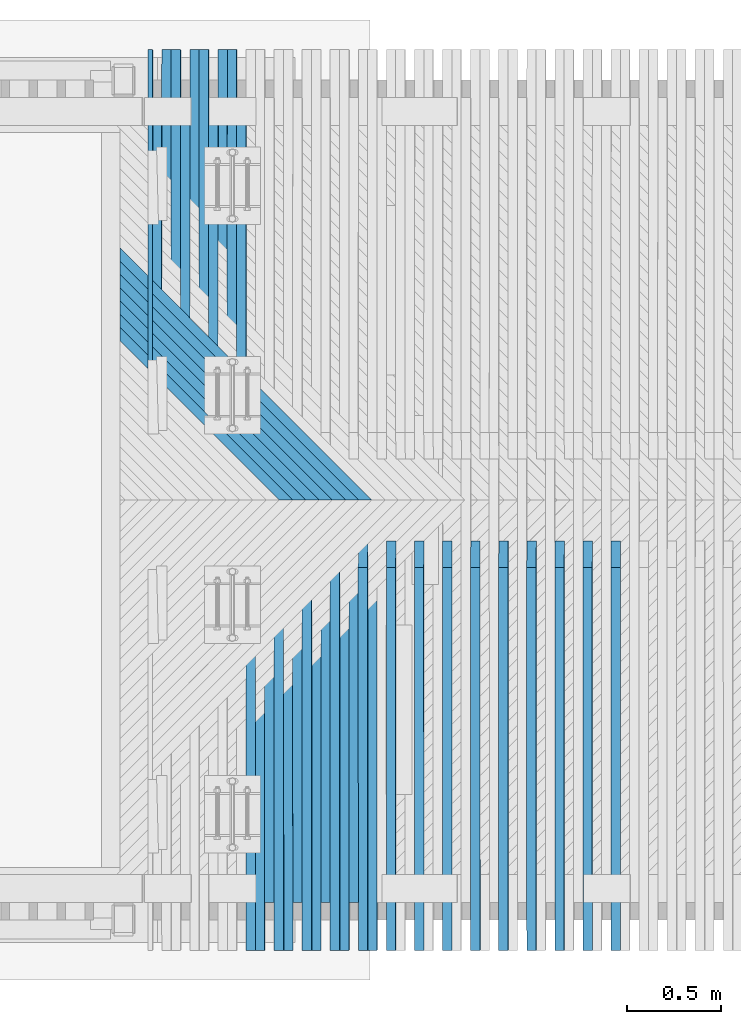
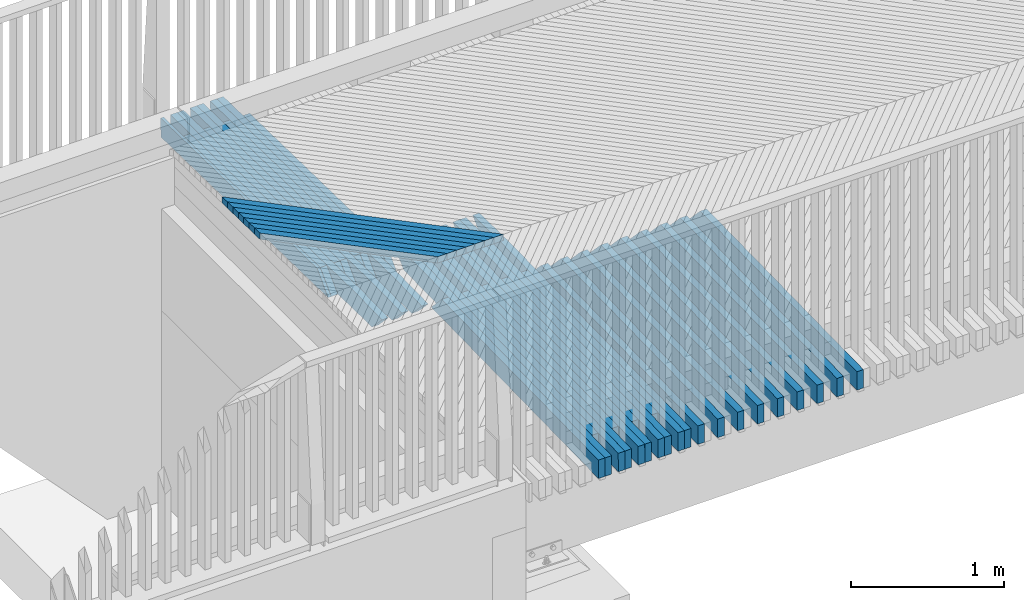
# One storey, part 14 of 47: 41 beams.
"""IFC2X3 building model written with IfcOpenShell, lengths in millimetres."""

from ifc_helpers import new_model, si_unit, frame, origin_with_axes, place, context, subcontext, project, spatial, faceted_brep, material, type_object, element, save


model = new_model("IFC2X3")

# Units and contexts
model_context = context("Model", 3, precision=1e-05, world=origin_with_axes())
body_context = subcontext(model_context, "Body", "Model", "MODEL_VIEW")
ifc_project = project(units=[si_unit("LENGTHUNIT", "METRE", prefix="MILLI"), si_unit("AREAUNIT", "SQUARE_METRE"), si_unit("VOLUMEUNIT", "CUBIC_METRE"), si_unit("MASSUNIT", "GRAM", prefix="KILO"), si_unit("TIMEUNIT", "SECOND"), si_unit("PLANEANGLEUNIT", "RADIAN"), si_unit("SOLIDANGLEUNIT", "STERADIAN"), si_unit("THERMODYNAMICTEMPERATUREUNIT", "DEGREE_CELSIUS"), si_unit("LUMINOUSINTENSITYUNIT", "LUMEN")], contexts=[model_context])

# Site, building, storey
site_placement = place(None, origin_with_axes())
site = spatial("IfcSite", under=ifc_project, at=site_placement, Name="Undefined", CompositionType="ELEMENT")
building_placement = place(site_placement, origin_with_axes())
building = spatial("IfcBuilding", under=site, at=building_placement, Name="Undefined", CompositionType="ELEMENT")
storey_placement = place(building_placement, origin_with_axes())
storey = spatial("IfcBuildingStorey", under=building, at=storey_placement, Name="Undefined", CompositionType="ELEMENT", Elevation=0.0)

# Beams
ifc_material = material(Name="TIMBER/Timber_Undefined")
beam_type_1 = type_object("IfcBeamType", Name="150*50", PredefinedType="NOTDEFINED")
beam_1_placement = place(storey_placement, frame((-451.366781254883, 64771.4438078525, 3028.65854987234), z_axis=(-0.0140342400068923, 0.0199960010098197, 0.99970155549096), x_axis=(-0.000280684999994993, -0.999800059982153, 0.019994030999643)))
element("IfcBeam", 1, at=beam_1_placement, inside=storey, type_object=beam_type_1, material=ifc_material, Name="BEAM", ObjectType="150*50", context=body_context, shape_type="Brep", body=[
    faceted_brep([(-6.19911588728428e-09, 25.0, 75.0), (6.18456397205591e-09, 24.9999999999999, -75.0), (6.1918399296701e-09, -0.143084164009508, -75.0), (-6.1918399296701e-09, 1.51686676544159, 75.0), (2186.42645864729, 25.0, -75.0), (2186.42645861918, 0.340830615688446, -75.0), (2047.96935973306, 1.9701372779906, 75.0), (2047.96935975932, 25.0, 75.0)], [[[0, 1, 2, 3]], [[2, 1, 4, 5]], [[3, 2, 5, 6]], [[0, 3, 6, 7]], [[1, 0, 7, 4]], [[6, 5, 4, 7]]]),
])
beam_2_placement = place(storey_placement, frame((-301.352542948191, 64771.4438078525, 3030.74621527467), z_axis=(-0.0137850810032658, 0.0199960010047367, 0.999705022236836), x_axis=(-0.000275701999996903, -0.999800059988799, 0.0199940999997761)))
element("IfcBeam", 2, at=beam_2_placement, inside=storey, type_object=beam_type_1, material=ifc_material, Name="BEAM", ObjectType="150*50", context=body_context, shape_type="Brep", body=[
    faceted_brep([(6.18456397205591e-09, -24.9999999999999, -75.0000000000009), (-6.1918399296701e-09, -24.9999999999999, 74.9999999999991), (-6.19911588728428e-09, 25.0, 75.0), (6.18456397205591e-09, 24.9999999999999, -75.0), (2186.42645864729, 25.0, -75.0), (2186.42645915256, -25.0000000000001, -75.0), (2047.96936034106, -25.0000000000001, 75.0), (2047.96935975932, 25.0, 75.0)], [[[0, 1, 2, 3]], [[0, 3, 4, 5]], [[1, 0, 5, 6]], [[2, 1, 6, 7]], [[3, 2, 7, 4]], [[6, 5, 4, 7]]]),
])
beam_3_placement = place(storey_placement, frame((-401.434081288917, 64513.4953923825, 3034.51705788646), z_axis=(-0.0139511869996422, 0.0199960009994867, 0.999702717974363), x_axis=(-0.000279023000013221, -0.999800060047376, 0.0199940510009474)))
element("IfcBeam", 3, at=beam_3_placement, inside=storey, type_object=beam_type_1, material=ifc_material, Name="BEAM", ObjectType="150*50", context=body_context, shape_type="Brep", body=[
    faceted_brep([(6.18456397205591e-09, -24.9999999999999, -75.0000000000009), (-6.1918399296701e-09, -24.9999999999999, 74.9999999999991), (-6.19911588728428e-09, 25.0, 75.0), (6.18456397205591e-09, 24.9999999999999, -75.0), (1928.42646506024, 25.0, -75.0), (1928.4264649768, -24.9999999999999, -75.0), (1789.96936577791, -24.9999999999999, 75.0), (1789.96936586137, 25.0, 75.0000000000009)], [[[0, 1, 2, 3]], [[0, 3, 4, 5]], [[1, 0, 5, 6]], [[2, 1, 6, 7]], [[3, 2, 7, 4]], [[6, 5, 4, 7]]]),
])
beam_4_placement = place(storey_placement, frame((-351.387200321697, 64771.443807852, 3030.05539664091), z_axis=(-0.0139511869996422, 0.0199960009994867, 0.999702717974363), x_axis=(-0.000279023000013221, -0.999800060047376, 0.0199940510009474)))
element("IfcBeam", 4, at=beam_4_placement, inside=storey, type_object=beam_type_1, material=ifc_material, Name="BEAM", ObjectType="150*50", context=body_context, shape_type="Brep", body=[
    faceted_brep([(6.18456397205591e-09, -24.9999999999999, -75.0000000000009), (6.18456397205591e-09, 24.9999999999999, -75.0), (2633.00494983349, 25.0000000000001, -75.0000000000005), (2633.00495050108, -24.9999999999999, -75.0000000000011), (-6.1918399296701e-09, -24.9999999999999, 74.9999999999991), (-6.19911588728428e-09, 25.0, 75.0), (2408.42506497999, 24.9999999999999, 75.0), (2768.5924870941, 25.0, 60.5875375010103), (2768.59248707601, -25.0, 60.5875366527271), (2408.4250638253, -25.0, 74.9999999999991)], [[[0, 1, 2, 3]], [[0, 4, 5, 1]], [[2, 1, 5, 6, 7]], [[3, 2, 7, 8]], [[4, 0, 3, 8, 9]], [[5, 4, 9, 6]], [[8, 7, 6, 9]]]),
])
beam_5_placement = place(storey_placement, frame((-151.337788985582, 64771.4438078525, 3032.79649211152), z_axis=(-0.0135359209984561, 0.0199960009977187, 0.999708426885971), x_axis=(-0.000270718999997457, -0.999800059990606, 0.0199941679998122)))
element("IfcBeam", 5, at=beam_5_placement, inside=storey, type_object=beam_type_1, material=ifc_material, Name="BEAM", ObjectType="150*50", context=body_context, shape_type="Brep", body=[
    faceted_brep([(6.18456397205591e-09, -24.9999999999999, -75.0000000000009), (-6.1918399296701e-09, -24.9999999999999, 74.9999999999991), (-6.19911588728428e-09, 25.0, 75.0), (6.18456397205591e-09, 24.9999999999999, -75.0), (2186.42645864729, 25.0, -75.0), (2186.42645915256, -25.0000000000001, -75.0), (2047.96936034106, -25.0000000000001, 75.0), (2047.96935975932, 25.0, 75.0)], [[[0, 1, 2, 3]], [[0, 3, 4, 5]], [[1, 0, 5, 6]], [[2, 1, 6, 7]], [[3, 2, 7, 4]], [[6, 5, 4, 7]]]),
])
beam_6_placement = place(storey_placement, frame((-251.418384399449, 64513.4953923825, 3036.59227822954), z_axis=(-0.0137020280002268, 0.0199960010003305, 0.999706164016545), x_axis=(-0.000274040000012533, -0.999800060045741, 0.0199941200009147)))
element("IfcBeam", 6, at=beam_6_placement, inside=storey, type_object=beam_type_1, material=ifc_material, Name="BEAM", ObjectType="150*50", context=body_context, shape_type="Brep", body=[
    faceted_brep([(6.18456397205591e-09, -24.9999999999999, -75.0000000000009), (-6.1918399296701e-09, -24.9999999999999, 74.9999999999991), (-6.19911588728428e-09, 25.0, 75.0), (6.18456397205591e-09, 24.9999999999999, -75.0), (1928.42646506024, 25.0, -75.0), (1928.4264649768, -24.9999999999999, -75.0), (1789.96936577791, -24.9999999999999, 75.0), (1789.96936586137, 25.0, 75.0000000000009)], [[[0, 1, 2, 3]], [[0, 3, 4, 5]], [[1, 0, 5, 6]], [[2, 1, 6, 7]], [[3, 2, 7, 4]], [[6, 5, 4, 7]]]),
])
beam_7_placement = place(storey_placement, frame((-201.372616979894, 64771.443807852, 3032.11814378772), z_axis=(-0.0137020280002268, 0.0199960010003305, 0.999706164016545), x_axis=(-0.000274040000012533, -0.999800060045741, 0.0199941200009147)))
element("IfcBeam", 7, at=beam_7_placement, inside=storey, type_object=beam_type_1, material=ifc_material, Name="BEAM", ObjectType="150*50", context=body_context, shape_type="Brep", body=[
    faceted_brep([(6.18456397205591e-09, -24.9999999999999, -75.0000000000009), (6.18456397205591e-09, 24.9999999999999, -75.0), (2633.00494983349, 25.0000000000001, -75.0000000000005), (2633.00495050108, -24.9999999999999, -75.0000000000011), (-6.1918399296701e-09, -24.9999999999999, 74.9999999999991), (-6.19911588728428e-09, 25.0, 75.0), (2408.42501428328, 25.0000000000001, 74.9999999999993), (2768.5924870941, 25.0, 60.5875375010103), (2768.59248707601, -25.0, 60.5875366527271), (2408.4250638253, -25.0, 74.9999999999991)], [[[0, 1, 2, 3]], [[0, 4, 5, 1]], [[2, 1, 5, 6, 7]], [[3, 2, 7, 8]], [[4, 0, 3, 8, 9]], [[5, 4, 9, 6]], [[8, 7, 6, 9]]]),
])
beam_8_placement = place(storey_placement, frame((-1.32252868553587, 64771.4438078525, 3034.80938025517), z_axis=(-0.0132867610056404, 0.0199960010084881, 0.999711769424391), x_axis=(-0.000265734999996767, -0.999800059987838, 0.0199942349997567)))
element("IfcBeam", 8, at=beam_8_placement, inside=storey, type_object=beam_type_1, material=ifc_material, Name="BEAM", ObjectType="150*50", context=body_context, shape_type="Brep", body=[
    faceted_brep([(6.18456397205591e-09, -24.9999999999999, -75.0000000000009), (-6.1918399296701e-09, -24.9999999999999, 74.9999999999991), (-6.19911588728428e-09, 25.0, 75.0), (6.18456397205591e-09, 24.9999999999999, -75.0), (2186.42645864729, 25.0, -75.0), (2186.42645915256, -25.0000000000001, -75.0), (2047.96936034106, -25.0000000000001, 75.0), (2047.96935975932, 25.0, 75.0)], [[[0, 1, 2, 3]], [[0, 3, 4, 5]], [[1, 0, 5, 6]], [[2, 1, 6, 7]], [[3, 2, 7, 4]], [[6, 5, 4, 7]]]),
])
beam_9_placement = place(storey_placement, frame((-101.402174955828, 64513.4953923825, 3038.6301096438), z_axis=(-0.0134528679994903, 0.0199960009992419, 0.99970954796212), x_axis=(-0.000269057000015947, -0.999800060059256, 0.0199941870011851)))
element("IfcBeam", 9, at=beam_9_placement, inside=storey, type_object=beam_type_1, material=ifc_material, Name="BEAM", ObjectType="150*50", context=body_context, shape_type="Brep", body=[
    faceted_brep([(6.18456397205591e-09, -24.9999999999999, -75.0000000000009), (-6.1918399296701e-09, -24.9999999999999, 74.9999999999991), (-6.19911588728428e-09, 25.0, 75.0), (6.18456397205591e-09, 24.9999999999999, -75.0), (1928.42646506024, 25.0, -75.0), (1928.4264649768, -24.9999999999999, -75.0), (1789.96936577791, -24.9999999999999, 75.0), (1789.96936586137, 25.0, 75.0000000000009)], [[[0, 1, 2, 3]], [[0, 3, 4, 5]], [[1, 0, 5, 6]], [[2, 1, 6, 7]], [[3, 2, 7, 4]], [[6, 5, 4, 7]]]),
])
beam_10_placement = place(storey_placement, frame((-51.3575241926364, 64771.443807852, 3034.14350228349), z_axis=(-0.0134528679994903, 0.0199960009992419, 0.99970954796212), x_axis=(-0.000269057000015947, -0.999800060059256, 0.0199941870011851)))
element("IfcBeam", 10, at=beam_10_placement, inside=storey, type_object=beam_type_1, material=ifc_material, Name="BEAM", ObjectType="150*50", context=body_context, shape_type="Brep", body=[
    faceted_brep([(6.18456397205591e-09, -24.9999999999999, -75.0000000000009), (6.18456397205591e-09, 24.9999999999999, -75.0), (2633.00494983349, 25.0000000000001, -75.0000000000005), (2633.00495050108, -24.9999999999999, -75.0000000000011), (-6.1918399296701e-09, -24.9999999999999, 74.9999999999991), (-6.19911588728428e-09, 25.0, 75.0), (2408.42506497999, 24.9999999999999, 75.0), (2768.5924870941, 25.0, 60.5875375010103), (2768.59248707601, -25.0, 60.5875366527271), (2408.4250638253, -25.0, 74.9999999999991)], [[[0, 1, 2, 3]], [[0, 4, 5, 1]], [[2, 1, 5, 6, 7]], [[3, 2, 7, 8]], [[4, 0, 3, 8, 9]], [[5, 4, 9, 6]], [[8, 7, 6, 9]]]),
])
beam_11_placement = place(storey_placement, frame((148.693228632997, 59958.5561921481, 3036.78487957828), z_axis=(-0.0130375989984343, -0.0199960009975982, 0.999715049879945), x_axis=(-0.000260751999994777, 0.99980005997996, 0.0199943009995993)))
element("IfcBeam", 11, at=beam_11_placement, inside=storey, type_object=beam_type_1, material=ifc_material, Name="BEAM", ObjectType="150*50", context=body_context, shape_type="Brep", body=[
    faceted_brep([(6.18456397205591e-09, -24.9999999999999, -75.0000000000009), (-6.1918399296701e-09, -24.9999999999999, 74.9999999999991), (-6.19911588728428e-09, 25.0, 75.0), (6.18456397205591e-09, 24.9999999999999, -75.0), (2633.00494983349, 25.0000000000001, -75.0000000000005), (2633.00495050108, -24.9999999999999, -75.0000000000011), (2768.59248707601, -25.0, 60.5875366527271), (2408.42499905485, -25.0, 74.9999999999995), (2408.42501428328, 25.0000000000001, 74.9999999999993), (2768.5924870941, 25.0, 60.5875375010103)], [[[0, 1, 2, 3]], [[0, 3, 4, 5]], [[1, 0, 5, 6, 7]], [[2, 1, 7, 8]], [[4, 3, 2, 8, 9]], [[5, 4, 9, 6]], [[8, 7, 6, 9]]]),
])
beam_12_placement = place(storey_placement, frame((48.6145377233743, 64513.4953923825, 3040.63055200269), z_axis=(-0.0132037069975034, 0.0199960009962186, 0.999712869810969), x_axis=(-0.000264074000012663, -0.999800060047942, 0.0199942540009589)))
element("IfcBeam", 12, at=beam_12_placement, inside=storey, type_object=beam_type_1, material=ifc_material, Name="BEAM", ObjectType="150*50", context=body_context, shape_type="Brep", body=[
    faceted_brep([(6.18456397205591e-09, -24.9999999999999, -75.0000000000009), (-6.1918399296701e-09, -24.9999999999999, 74.9999999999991), (-6.19911588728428e-09, 25.0, 75.0), (6.18456397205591e-09, 24.9999999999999, -75.0), (1928.42646506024, 25.0, -75.0), (1928.4264649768, -24.9999999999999, -75.0), (1789.96936577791, -24.9999999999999, 75.0), (1789.96936586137, 25.0, 75.0000000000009)], [[[0, 1, 2, 3]], [[0, 3, 4, 5]], [[1, 0, 5, 6]], [[2, 1, 6, 7]], [[3, 2, 7, 4]], [[6, 5, 4, 7]]]),
])
beam_13_placement = place(storey_placement, frame((98.6589257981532, 59958.5561921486, 3036.13148332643), z_axis=(-0.0132037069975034, -0.0199960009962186, 0.999712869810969), x_axis=(-0.000264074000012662, 0.999800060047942, 0.0199942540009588)))
element("IfcBeam", 13, at=beam_13_placement, inside=storey, type_object=beam_type_1, material=ifc_material, Name="BEAM", ObjectType="150*50", context=body_context, shape_type="Brep", body=[
    faceted_brep([(6.18456397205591e-09, -24.9999999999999, -75.0000000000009), (-6.1918399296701e-09, -24.9999999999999, 74.9999999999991), (-6.19911588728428e-09, 25.0, 75.0), (6.18456397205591e-09, 24.9999999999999, -75.0), (2186.42645915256, -25.0000000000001, -75.0), (2047.96936034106, -25.0000000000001, 75.0), (2047.96935975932, 25.0, 75.0), (2186.42645864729, 25.0, -75.0)], [[[0, 1, 2, 3]], [[1, 0, 4, 5]], [[2, 1, 5, 6]], [[3, 2, 6, 7]], [[0, 3, 7, 4]], [[5, 4, 7, 6]]]),
])
beam_14_placement = place(storey_placement, frame((298.709473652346, 59958.5561921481, 3038.72298996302), z_axis=(-0.0127884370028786, -0.0199960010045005, 0.999718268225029), x_axis=(-0.000255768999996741, 0.999800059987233, 0.0199943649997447)))
element("IfcBeam", 14, at=beam_14_placement, inside=storey, type_object=beam_type_1, material=ifc_material, Name="BEAM", ObjectType="150*50", context=body_context, shape_type="Brep", body=[
    faceted_brep([(6.18456397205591e-09, -24.9999999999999, -75.0000000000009), (-6.1918399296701e-09, -24.9999999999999, 74.9999999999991), (-6.19911588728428e-09, 25.0, 75.0), (6.18456397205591e-09, 24.9999999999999, -75.0), (2633.00494983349, 25.0000000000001, -75.0000000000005), (2633.00495050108, -24.9999999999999, -75.0000000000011), (2768.59248707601, -25.0, 60.5875366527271), (2408.42499905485, -25.0, 74.9999999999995), (2408.42501428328, 25.0000000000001, 74.9999999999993), (2768.5924870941, 25.0, 60.5875375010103)], [[[0, 1, 2, 3]], [[0, 3, 4, 5]], [[1, 0, 5, 6, 7]], [[2, 1, 7, 8]], [[4, 3, 2, 8, 9]], [[5, 4, 9, 6]], [[8, 7, 6, 9]]]),
])
beam_15_placement = place(storey_placement, frame((198.631744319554, 60216.5046076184, 3042.5936051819), z_axis=(-0.0129545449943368, -0.019996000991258, 0.999716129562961), x_axis=(-0.000259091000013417, 0.999800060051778, 0.0199943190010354)))
element("IfcBeam", 15, at=beam_15_placement, inside=storey, type_object=beam_type_1, material=ifc_material, Name="BEAM", ObjectType="150*50", context=body_context, shape_type="Brep", body=[
    faceted_brep([(6.18456397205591e-09, -24.9999999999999, -75.0000000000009), (-6.1918399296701e-09, -24.9999999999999, 74.9999999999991), (-6.19911588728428e-09, 25.0, 75.0), (6.18456397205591e-09, 24.9999999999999, -75.0), (2375.00494220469, 24.9999999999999, -75.0000000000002), (2375.00494218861, -25.0, -75.0), (2510.59248711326, -25.0, 60.5875455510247), (2150.42518973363, -25.0, 75.0000000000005), (2150.42518840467, 25.0, 74.9999999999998), (2510.59248707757, 25.0, 60.5875454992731)], [[[0, 1, 2, 3]], [[0, 3, 4, 5]], [[1, 0, 5, 6, 7]], [[2, 1, 7, 8]], [[4, 3, 2, 8, 9]], [[5, 4, 9, 6]], [[8, 7, 6, 9]]]),
])
beam_16_placement = place(storey_placement, frame((248.675009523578, 59958.5561921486, 3038.08206393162), z_axis=(-0.0129545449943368, -0.019996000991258, 0.999716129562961), x_axis=(-0.000259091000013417, 0.999800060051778, 0.0199943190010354)))
element("IfcBeam", 16, at=beam_16_placement, inside=storey, type_object=beam_type_1, material=ifc_material, Name="BEAM", ObjectType="150*50", context=body_context, shape_type="Brep", body=[
    faceted_brep([(6.18456397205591e-09, -24.9999999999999, -75.0000000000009), (-6.1918399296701e-09, -24.9999999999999, 74.9999999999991), (-6.19911588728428e-09, 25.0, 75.0), (6.18456397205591e-09, 24.9999999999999, -75.0), (2186.42645915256, -25.0000000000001, -75.0), (2047.96936034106, -25.0000000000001, 75.0), (2047.96935975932, 25.0, 75.0), (2186.42645864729, 25.0, -75.0)], [[[0, 1, 2, 3]], [[1, 0, 4, 5]], [[2, 1, 5, 6]], [[3, 2, 6, 7]], [[0, 3, 7, 4]], [[5, 4, 7, 6]]]),
])
beam_17_placement = place(storey_placement, frame((448.726197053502, 59958.5561921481, 3040.62371128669), z_axis=(-0.0125392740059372, -0.0199960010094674, 0.999721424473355), x_axis=(-0.000250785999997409, 0.999800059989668, 0.0199944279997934)))
element("IfcBeam", 17, at=beam_17_placement, inside=storey, type_object=beam_type_1, material=ifc_material, Name="BEAM", ObjectType="150*50", context=body_context, shape_type="Brep", body=[
    faceted_brep([(6.18456397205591e-09, -24.9999999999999, -75.0000000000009), (-6.1918399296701e-09, -24.9999999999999, 74.9999999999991), (-6.19911588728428e-09, 25.0, 75.0), (6.18456397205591e-09, 24.9999999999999, -75.0), (2633.00494983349, 25.0000000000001, -75.0000000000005), (2633.00495050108, -24.9999999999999, -75.0000000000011), (2768.59248707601, -25.0, 60.5875366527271), (2408.42499905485, -25.0, 74.9999999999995), (2408.42501428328, 25.0000000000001, 74.9999999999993), (2768.5924870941, 25.0, 60.5875375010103)], [[[0, 1, 2, 3]], [[0, 3, 4, 5]], [[1, 0, 5, 6, 7]], [[2, 1, 7, 8]], [[4, 3, 2, 8, 9]], [[5, 4, 9, 6]], [[8, 7, 6, 9]]]),
])
beam_18_placement = place(storey_placement, frame((348.649435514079, 60216.5046076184, 3044.51926905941), z_axis=(-0.0127053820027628, -0.0199960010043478, 0.999719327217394), x_axis=(-0.000254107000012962, 0.999800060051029, 0.0199943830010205)))
element("IfcBeam", 18, at=beam_18_placement, inside=storey, type_object=beam_type_1, material=ifc_material, Name="BEAM", ObjectType="150*50", context=body_context, shape_type="Brep", body=[
    faceted_brep([(6.18456397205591e-09, -24.9999999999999, -75.0000000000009), (-6.1918399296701e-09, -24.9999999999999, 74.9999999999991), (-6.19911588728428e-09, 25.0, 75.0), (6.18456397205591e-09, 24.9999999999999, -75.0), (2375.00494220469, 24.9999999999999, -75.0000000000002), (2375.00494218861, -25.0, -75.0), (2510.59248711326, -25.0, 60.5875455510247), (2150.42518973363, -25.0, 75.0000000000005), (2150.42518840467, 25.0, 74.9999999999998), (2510.59248707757, 25.0, 60.5875454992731)], [[[0, 1, 2, 3]], [[0, 3, 4, 5]], [[1, 0, 5, 6, 7]], [[2, 1, 7, 8]], [[4, 3, 2, 8, 9]], [[5, 4, 9, 6]], [[8, 7, 6, 9]]]),
])
beam_19_placement = place(storey_placement, frame((398.691574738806, 59958.5561921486, 3039.99525551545), z_axis=(-0.0127053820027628, -0.0199960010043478, 0.999719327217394), x_axis=(-0.000254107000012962, 0.999800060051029, 0.0199943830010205)))
element("IfcBeam", 19, at=beam_19_placement, inside=storey, type_object=beam_type_1, material=ifc_material, Name="BEAM", ObjectType="150*50", context=body_context, shape_type="Brep", body=[
    faceted_brep([(6.18456397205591e-09, -24.9999999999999, -75.0000000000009), (-6.1918399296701e-09, -24.9999999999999, 74.9999999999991), (-6.19911588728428e-09, 25.0, 75.0), (6.18456397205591e-09, 24.9999999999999, -75.0), (2186.42645915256, -25.0000000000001, -75.0), (2047.96936034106, -25.0000000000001, 75.0), (2047.96935975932, 25.0, 75.0), (2186.42645864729, 25.0, -75.0)], [[[0, 1, 2, 3]], [[1, 0, 4, 5]], [[2, 1, 5, 6]], [[3, 2, 6, 7]], [[0, 3, 7, 4]], [[5, 4, 7, 6]]]),
])
beam_20_placement = place(storey_placement, frame((598.743389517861, 59958.5561921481, 3042.48704343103), z_axis=(-0.0122901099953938, -0.0199960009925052, 0.999724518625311), x_axis=(-0.000245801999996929, 0.999800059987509, 0.0199944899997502)))
element("IfcBeam", 20, at=beam_20_placement, inside=storey, type_object=beam_type_1, material=ifc_material, Name="BEAM", ObjectType="150*50", context=body_context, shape_type="Brep", body=[
    faceted_brep([(6.18456397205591e-09, -24.9999999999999, -75.0000000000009), (-6.1918399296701e-09, -24.9999999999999, 74.9999999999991), (-6.19911588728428e-09, 25.0, 75.0), (6.18456397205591e-09, 24.9999999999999, -75.0), (2633.00494983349, 25.0000000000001, -75.0000000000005), (2633.00495050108, -24.9999999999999, -75.0000000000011), (2768.59248707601, -25.0, 60.5875366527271), (2408.42499905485, -25.0, 74.9999999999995), (2408.42501428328, 25.0000000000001, 74.9999999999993), (2768.5924870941, 25.0, 60.5875375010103)], [[[0, 1, 2, 3]], [[0, 3, 4, 5]], [[1, 0, 5, 6, 7]], [[2, 1, 7, 8]], [[4, 3, 2, 8, 9]], [[5, 4, 9, 6]], [[8, 7, 6, 9]]]),
])
beam_21_placement = place(storey_placement, frame((498.667601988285, 60216.5046076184, 3046.40754351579), z_axis=(-0.0124562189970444, -0.0199960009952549, 0.999722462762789), x_axis=(-0.000249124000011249, 0.999800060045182, 0.0199944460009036)))
element("IfcBeam", 21, at=beam_21_placement, inside=storey, type_object=beam_type_1, material=ifc_material, Name="BEAM", ObjectType="150*50", context=body_context, shape_type="Brep", body=[
    faceted_brep([(6.18456397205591e-09, -24.9999999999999, -75.0000000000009), (-6.1918399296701e-09, -24.9999999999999, 74.9999999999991), (-6.19911588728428e-09, 25.0, 75.0), (6.18456397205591e-09, 24.9999999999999, -75.0), (2375.00494220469, 24.9999999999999, -75.0000000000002), (2375.00494218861, -25.0, -75.0), (2510.59248711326, -25.0, 60.5875455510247), (2150.42518973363, -25.0, 75.0000000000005), (2150.42518840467, 25.0, 74.9999999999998), (2510.59248707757, 25.0, 60.5875454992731)], [[[0, 1, 2, 3]], [[0, 3, 4, 5]], [[1, 0, 5, 6, 7]], [[2, 1, 7, 8]], [[4, 3, 2, 8, 9]], [[5, 4, 9, 6]], [[8, 7, 6, 9]]]),
])
beam_22_placement = place(storey_placement, frame((548.708612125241, 59958.5561921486, 3041.87105795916), z_axis=(-0.0124562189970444, -0.0199960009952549, 0.999722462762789), x_axis=(-0.000249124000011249, 0.999800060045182, 0.0199944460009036)))
element("IfcBeam", 22, at=beam_22_placement, inside=storey, type_object=beam_type_1, material=ifc_material, Name="BEAM", ObjectType="150*50", context=body_context, shape_type="Brep", body=[
    faceted_brep([(6.18456397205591e-09, -24.9999999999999, -75.0000000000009), (-6.1918399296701e-09, -24.9999999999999, 74.9999999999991), (-6.19911588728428e-09, 25.0, 75.0), (6.18456397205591e-09, 24.9999999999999, -75.0), (2186.42645915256, -25.0000000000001, -75.0), (2047.96936034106, -25.0000000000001, 75.0), (2047.96935975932, 25.0, 75.0), (2186.42645864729, 25.0, -75.0)], [[[0, 1, 2, 3]], [[1, 0, 4, 5]], [[2, 1, 5, 6]], [[3, 2, 6, 7]], [[0, 3, 7, 4]], [[5, 4, 7, 6]]]),
])
beam_23_placement = place(storey_placement, frame((748.761041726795, 59958.5561921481, 3044.31298628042), z_axis=(-0.0120409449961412, -0.0199960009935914, 0.999727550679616), x_axis=(-0.000240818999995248, 0.999800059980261, 0.0199945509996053)))
element("IfcBeam", 23, at=beam_23_placement, inside=storey, type_object=beam_type_1, material=ifc_material, Name="BEAM", ObjectType="150*50", context=body_context, shape_type="Brep", body=[
    faceted_brep([(6.18456397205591e-09, -24.9999999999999, -75.0000000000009), (-6.1918399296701e-09, -24.9999999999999, 74.9999999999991), (-6.19911588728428e-09, 25.0, 75.0), (6.18456397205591e-09, 24.9999999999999, -75.0), (2633.00494983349, 25.0000000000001, -75.0000000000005), (2633.00495050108, -24.9999999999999, -75.0000000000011), (2768.59248707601, -25.0, 60.5875366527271), (2408.42499905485, -25.0, 74.9999999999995), (2408.42501428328, 25.0000000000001, 74.9999999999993), (2768.5924870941, 25.0, 60.5875375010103)], [[[0, 1, 2, 3]], [[0, 3, 4, 5]], [[1, 0, 5, 6, 7]], [[2, 1, 7, 8]], [[4, 3, 2, 8, 9]], [[5, 4, 9, 6]], [[8, 7, 6, 9]]]),
])
beam_24_placement = place(storey_placement, frame((648.686234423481, 60216.5046076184, 3048.25842843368), z_axis=(-0.0122070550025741, -0.0199960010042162, 0.999725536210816), x_axis=(-0.000244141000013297, 0.999800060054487, 0.0199945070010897)))
element("IfcBeam", 24, at=beam_24_placement, inside=storey, type_object=beam_type_1, material=ifc_material, Name="BEAM", ObjectType="150*50", context=body_context, shape_type="Brep", body=[
    faceted_brep([(6.18456397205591e-09, -24.9999999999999, -75.0000000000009), (-6.1918399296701e-09, -24.9999999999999, 74.9999999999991), (-6.19911588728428e-09, 25.0, 75.0), (6.18456397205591e-09, 24.9999999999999, -75.0), (2375.00494220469, 24.9999999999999, -75.0000000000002), (2375.00494218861, -25.0, -75.0), (2510.59248711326, -25.0, 60.5875455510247), (2150.42518973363, -25.0, 75.0000000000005), (2150.42518840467, 25.0, 74.9999999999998), (2510.59248707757, 25.0, 60.5875454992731)], [[[0, 1, 2, 3]], [[0, 3, 4, 5]], [[1, 0, 5, 6, 7]], [[2, 1, 7, 8]], [[4, 3, 2, 8, 9]], [[5, 4, 9, 6]], [[8, 7, 6, 9]]]),
])
for number, where, z_axis, x_axis, name in (
    (25, (698.726112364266, 59958.5561921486, 3043.70947114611), (-0.0122070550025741, -0.0199960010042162, 0.999725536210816), (-0.000244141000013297, 0.999800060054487, 0.0199945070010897), "BEAM"),
    (26, (848.744066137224, 59958.5561921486, 3045.5104949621), (-0.0119578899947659, -0.019996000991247, 0.999728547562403), (-0.00023915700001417, 0.999800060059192, 0.0199945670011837), "BEAM"),
    (27, (998.762464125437, 59958.5561921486, 3047.27412929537), (-0.0117087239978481, -0.0199960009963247, 0.999731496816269), (-0.000234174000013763, 0.999800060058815, 0.0199946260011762), "BEAM"),
    (28, (1148.7812970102, 59958.5561921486, 3049.00037403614), (-0.0114595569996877, -0.0199960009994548, 0.999734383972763), (-0.000229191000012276, 0.9998000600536, 0.0199946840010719), "BEAM"),
    (29, (1298.80055547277, 59958.5561921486, 3050.68922907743), (-0.0112103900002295, -0.0199960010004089, 0.999737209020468), (-0.000224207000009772, 0.999800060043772, 0.0199947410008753), "BEAM"),
    (30, (1448.8202301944, 59958.5561921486, 3052.34069431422), (-0.0109612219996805, -0.0199960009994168, 0.999739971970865), (-0.000219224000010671, 0.999800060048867, 0.0199947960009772), "BEAM"),
    (31, (1598.84031185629, 59958.5561921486, 3053.95476964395), (-0.0107120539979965, -0.0199960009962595, 0.99974267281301), (-0.00021424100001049, 0.999800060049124, 0.0199948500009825), "BEAM"),
    (32, (1748.86079113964, 59958.5561921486, 3055.53145496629), (-0.0104628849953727, -0.0199960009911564, 0.999745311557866), (-0.000209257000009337, 0.999800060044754, 0.019994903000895), "BEAM"),
    (33, (1898.88165872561, 59958.5561921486, 3057.07075018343), (-0.0102137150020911, -0.0199960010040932, 0.999747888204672), (-0.000204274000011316, 0.999800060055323, 0.0199949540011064), "BEAM"),
    (34, (2048.90290529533, 59958.5561921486, 3058.57265519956), (-0.00996454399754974, -0.0199960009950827, 0.99975040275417), (-0.000199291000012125, 0.999800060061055, 0.019995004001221), "BEAM"),
):
    element("IfcBeam", number, at=place(storey_placement, frame(where, z_axis=z_axis, x_axis=x_axis)), inside=storey, type_object=beam_type_1, material=ifc_material, Name=name, ObjectType="150*50", context=body_context, shape_type="Brep", body=[
        faceted_brep([(6.18456397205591e-09, -24.9999999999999, -75.0000000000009), (-6.1918399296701e-09, -24.9999999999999, 74.9999999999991), (-6.19911588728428e-09, 25.0, 75.0), (6.18456397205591e-09, 24.9999999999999, -75.0), (2186.42645915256, -25.0000000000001, -75.0), (2047.96936034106, -25.0000000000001, 75.0), (2047.96935975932, 25.0, 75.0), (2186.42645864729, 25.0, -75.0)], [[[0, 1, 2, 3]], [[1, 0, 4, 5]], [[2, 1, 5, 6]], [[3, 2, 6, 7]], [[0, 3, 7, 4]], [[5, 4, 7, 6]]]),
    ])
beam_type_2 = type_object("IfcBeamType", Name="50*50", PredefinedType="NOTDEFINED")
beam_25_placement = place(storey_placement, frame((285.627712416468, 62365.4998996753, 3186.70087009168), z_axis=(0.707221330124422, 0.706981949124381, -0.00380970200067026), x_axis=(-0.70684136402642, 0.706948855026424, -0.0244663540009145)))
element("IfcBeam", 35, at=beam_25_placement, inside=storey, type_object=beam_type_2, material=ifc_material, Name="BEAM", ObjectType="50*50", context=body_context, shape_type="Brep", body=[
    faceted_brep([(25.0011701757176, -25.0, -24.9999999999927), (-25.0011704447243, -25.0, 24.9999999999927), (-26.4154158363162, 25.0, 25.0), (23.5869248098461, 25.0, -25.0), (1277.43393563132, 25.0000000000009, 25.0000000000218), (1227.40705788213, 25.0000000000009, -24.9999999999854), (1228.44010482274, -24.9999999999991, -24.9999999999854), (1278.46698257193, -24.9999999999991, 25.0000000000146)], [[[0, 1, 2, 3]], [[3, 2, 4, 5]], [[0, 3, 5, 6]], [[1, 0, 6, 7]], [[2, 1, 7, 4]], [[6, 5, 4, 7]]]),
])
beam_26_placement = place(storey_placement, frame((356.346193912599, 62365.4998996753, 3187.60285202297), z_axis=(0.707220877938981, 0.706981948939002, -0.00389277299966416), x_axis=(-0.706844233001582, 0.706948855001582, -0.0243833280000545)))
element("IfcBeam", 36, at=beam_26_placement, inside=storey, type_object=beam_type_2, material=ifc_material, Name="BEAM", ObjectType="50*50", context=body_context, shape_type="Brep", body=[
    faceted_brep([(25.0011701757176, -25.0, -24.9999999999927), (-25.0011704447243, -25.0, 24.9999999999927), (-26.4154158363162, 25.0, 25.0), (23.5869248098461, 25.0, -25.0), (1377.48107131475, 25.0, 24.9999999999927), (1327.45442860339, 25.0, -25.0), (1328.47916507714, -25.0, -25.0), (1378.50580778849, -25.0, 25.0)], [[[0, 1, 2, 3]], [[3, 2, 4, 5]], [[0, 3, 5, 6]], [[1, 0, 6, 7]], [[2, 1, 7, 4]], [[6, 5, 4, 7]]]),
])
beam_27_placement = place(storey_placement, frame((427.06478086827, 62365.4998996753, 3188.49652730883), z_axis=(0.707220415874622, 0.706981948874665, -0.0039758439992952), x_axis=(-0.706847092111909, 0.706948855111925, -0.0243003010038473)))
element("IfcBeam", 37, at=beam_27_placement, inside=storey, type_object=beam_type_2, material=ifc_material, Name="BEAM", ObjectType="50*50", context=body_context, shape_type="Brep", body=[
    faceted_brep([(25.0011701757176, -25.0, -24.9999999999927), (-25.0011704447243, -25.0, 24.9999999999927), (-26.4154158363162, 25.0, 25.0), (23.5869248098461, 25.0, -25.0), (1477.52756434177, 25.0, 24.9999999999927), (1427.50115666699, 25.0, -25.0), (1428.51758270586, -25.0, -25.0000000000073), (1478.54399038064, -25.0, 24.9999999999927)], [[[0, 1, 2, 3]], [[3, 2, 4, 5]], [[0, 3, 5, 6]], [[1, 0, 6, 7]], [[2, 1, 7, 4]], [[6, 5, 4, 7]]]),
])
beam_28_placement = place(storey_placement, frame((497.783472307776, 62365.4998996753, 3189.38189593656), z_axis=(0.707219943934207, 0.70698194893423, -0.00405891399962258), x_axis=(-0.706849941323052, 0.706948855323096, -0.024217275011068)))
element("IfcBeam", 38, at=beam_28_placement, inside=storey, type_object=beam_type_2, material=ifc_material, Name="BEAM", ObjectType="50*50", context=body_context, shape_type="Brep", body=[
    faceted_brep([(25.0011701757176, -25.0, -24.9999999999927), (-25.0011704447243, -25.0, 24.9999999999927), (-26.4154158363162, 25.0, 25.0), (23.5869248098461, 25.0, -25.0), (1577.57341753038, 24.9999999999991, 25.0000000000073), (1527.54724488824, 24.9999999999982, -24.9999999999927), (1528.55536067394, -25.0000000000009, -24.9999999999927), (1578.58153331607, -25.0000000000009, 25.0000000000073)], [[[0, 1, 2, 3]], [[3, 2, 4, 5]], [[0, 3, 5, 6]], [[1, 0, 6, 7]], [[2, 1, 7, 4]], [[6, 5, 4, 7]]]),
])
beam_29_placement = place(storey_placement, frame((568.50226725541, 62365.4998996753, 3190.25895789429), z_axis=(0.707219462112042, 0.706981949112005, -0.0041419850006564), x_axis=(-0.706852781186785, 0.706948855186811, -0.0241342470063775)))
element("IfcBeam", 39, at=beam_29_placement, inside=storey, type_object=beam_type_2, material=ifc_material, Name="BEAM", ObjectType="50*50", context=body_context, shape_type="Brep", body=[
    faceted_brep([(25.0011701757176, -25.0, -24.9999999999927), (-25.0011704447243, -25.0, 24.9999999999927), (-26.4154158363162, 25.0, 25.0), (23.5869248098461, 25.0, -25.0), (1677.61863252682, 25.0000000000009, 25.0), (1627.59269495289, 25.0, -25.0), (1628.59250041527, -24.9999999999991, -25.0000000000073), (1678.61843798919, -24.9999999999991, 24.9999999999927)], [[[0, 1, 2, 3]], [[3, 2, 4, 5]], [[0, 3, 5, 6]], [[1, 0, 6, 7]], [[2, 1, 7, 4]], [[6, 5, 4, 7]]]),
])
beam_30_placement = place(storey_placement, frame((639.221164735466, 62365.4998996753, 3191.12771316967), z_axis=(0.707218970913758, 0.706981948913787, -0.00422505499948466), x_axis=(-0.70685561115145, 0.70694885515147, -0.0240512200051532)))
element("IfcBeam", 40, at=beam_30_placement, inside=storey, type_object=beam_type_2, material=ifc_material, Name="BEAM", ObjectType="50*50", context=body_context, shape_type="Brep", body=[
    faceted_brep([(25.0011701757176, -25.0, -24.9999999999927), (-25.0011704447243, -25.0, 24.9999999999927), (-26.4154158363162, 25.0, 25.0), (23.5869248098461, 25.0, -25.0), (1777.66321320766, 25.0, 25.0), (1727.63751066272, 25.0, -25.0), (1728.62900598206, -25.0, -25.0), (1778.654708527, -25.0, 25.0)], [[[0, 1, 2, 3]], [[3, 2, 4, 5]], [[0, 3, 5, 6]], [[1, 0, 6, 7]], [[2, 1, 7, 4]], [[6, 5, 4, 7]]]),
])
beam_31_placement = place(storey_placement, frame((709.940163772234, 62365.4998996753, 3191.98816175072), z_axis=(0.707218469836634, 0.706981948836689, -0.00430812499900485), x_axis=(-0.706858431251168, 0.706948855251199, -0.0239681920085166)))
element("IfcBeam", 41, at=beam_31_placement, inside=storey, type_object=beam_type_2, material=ifc_material, Name="BEAM", ObjectType="50*50", context=body_context, shape_type="Brep", body=[
    faceted_brep([(25.0011701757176, -25.0, -24.9999999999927), (-25.0011704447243, -25.0, 24.9999999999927), (-26.4154158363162, 25.0, 25.0), (23.5869248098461, 25.0, -25.0), (1877.7071623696, 25.0, 25.0), (1827.68169485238, 25.0, -24.9999999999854), (1828.6648800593, -25.0, -25.0), (1878.69034757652, -25.0, 25.0)], [[[0, 1, 2, 3]], [[3, 2, 4, 5]], [[0, 3, 5, 6]], [[1, 0, 6, 7]], [[2, 1, 7, 4]], [[6, 5, 4, 7]]]),
])

save(model, "model.ifc")
